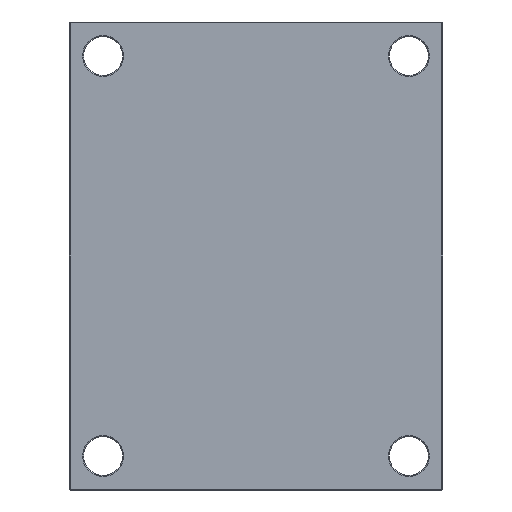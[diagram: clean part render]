
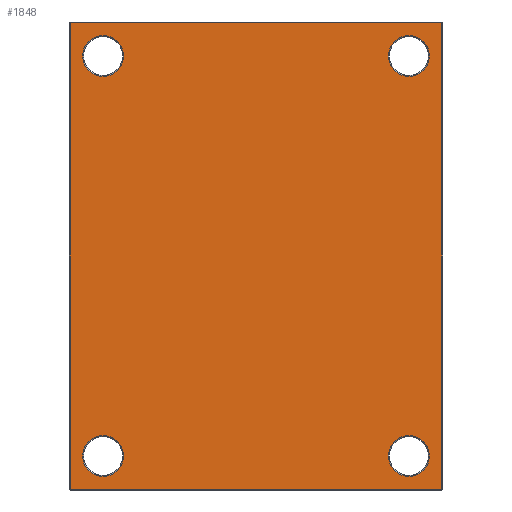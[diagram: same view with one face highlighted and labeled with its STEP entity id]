
A CAD part, front view. The second image highlights one B-rep face of the part: STEP entity #1848.
In plain terms, the highlighted planar face has unit normal (0, -1, 0).
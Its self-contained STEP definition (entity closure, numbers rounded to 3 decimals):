
#14 = CARTESIAN_POINT ( 'NONE',  ( -162., 0., 190.35 ) ) ;
#17 = DIRECTION ( 'NONE',  ( 0., 1., 0. ) ) ;
#46 = AXIS2_PLACEMENT_3D ( 'NONE', #1468, #167, #86 ) ;
#50 = AXIS2_PLACEMENT_3D ( 'NONE', #1085, #971, #840 ) ;
#52 = CARTESIAN_POINT ( 'NONE',  ( 162., 0., -212. ) ) ;
#60 = ORIENTED_EDGE ( 'NONE', *, *, #1984, .T. ) ;
#62 = DIRECTION ( 'NONE',  ( 0., 0., 1. ) ) ;
#64 = ORIENTED_EDGE ( 'NONE', *, *, #2108, .T. ) ;
#86 = DIRECTION ( 'NONE',  ( 0., 0., 1. ) ) ;
#95 = CARTESIAN_POINT ( 'NONE',  ( 162., 0., -233.65 ) ) ;
#103 = CARTESIAN_POINT ( 'NONE',  ( -162., 0., -190.35 ) ) ;
#112 = DIRECTION ( 'NONE',  ( 0., 1., 0. ) ) ;
#116 = VERTEX_POINT ( 'NONE', #95 ) ;
#138 = CARTESIAN_POINT ( 'NONE',  ( -162., 0., -212. ) ) ;
#150 = AXIS2_PLACEMENT_3D ( 'NONE', #564, #485, #478 ) ;
#156 = VERTEX_POINT ( 'NONE', #14 ) ;
#160 = AXIS2_PLACEMENT_3D ( 'NONE', #138, #17, #62 ) ;
#167 = DIRECTION ( 'NONE',  ( 0., 1., 0. ) ) ;
#168 = DIRECTION ( 'NONE',  ( 0., 0., 1. ) ) ;
#179 = AXIS2_PLACEMENT_3D ( 'NONE', #1309, #1211, #1059 ) ;
#229 = EDGE_CURVE ( 'NONE', #683, #116, #1366, .T. ) ;
#283 = DIRECTION ( 'NONE',  ( -1., 0., 0. ) ) ;
#296 = ORIENTED_EDGE ( 'NONE', *, *, #2058, .T. ) ;
#298 = CARTESIAN_POINT ( 'NONE',  ( 162., 0., 212. ) ) ;
#299 = CARTESIAN_POINT ( 'NONE',  ( 0., 0., 0. ) ) ;
#301 = ORIENTED_EDGE ( 'NONE', *, *, #2022, .T. ) ;
#304 = DIRECTION ( 'NONE',  ( 0., 1., 0. ) ) ;
#326 = CARTESIAN_POINT ( 'NONE',  ( 0., 0., 247. ) ) ;
#336 = CARTESIAN_POINT ( 'NONE',  ( 162., 0., -212. ) ) ;
#397 = AXIS2_PLACEMENT_3D ( 'NONE', #336, #304, #2031 ) ;
#422 = CARTESIAN_POINT ( 'NONE',  ( 162., 0., -190.35 ) ) ;
#433 = DIRECTION ( 'NONE',  ( 0., 1., 0. ) ) ;
#460 = FACE_OUTER_BOUND ( 'NONE', #1065, .T. ) ;
#471 = AXIS2_PLACEMENT_3D ( 'NONE', #299, #2151, #1292 ) ;
#474 = VERTEX_POINT ( 'NONE', #1813 ) ;
#478 = DIRECTION ( 'NONE',  ( 0., 0., 1. ) ) ;
#485 = DIRECTION ( 'NONE',  ( 0., 1., 0. ) ) ;
#491 = CARTESIAN_POINT ( 'NONE',  ( 162., 0., 233.65 ) ) ;
#508 = ORIENTED_EDGE ( 'NONE', *, *, #2109, .T. ) ;
#534 = AXIS2_PLACEMENT_3D ( 'NONE', #298, #433, #1965 ) ;
#564 = CARTESIAN_POINT ( 'NONE',  ( 162., 0., 212. ) ) ;
#578 = EDGE_LOOP ( 'NONE', ( #1860, #1958 ) ) ;
#585 = CIRCLE ( 'NONE', #46, 21.65 ) ;
#659 = ORIENTED_EDGE ( 'NONE', *, *, #2116, .T. ) ;
#683 = VERTEX_POINT ( 'NONE', #422 ) ;
#739 = CIRCLE ( 'NONE', #150, 21.65 ) ;
#754 = ORIENTED_EDGE ( 'NONE', *, *, #2054, .T. ) ;
#765 = LINE ( 'NONE', #1591, #1575 ) ;
#840 = DIRECTION ( 'NONE',  ( 0., 0., 1. ) ) ;
#900 = FACE_BOUND ( 'NONE', #1017, .T. ) ;
#922 = VECTOR ( 'NONE', #2111, 1000. ) ;
#924 = CIRCLE ( 'NONE', #397, 21.65 ) ;
#949 = AXIS2_PLACEMENT_3D ( 'NONE', #52, #112, #168 ) ;
#957 = CARTESIAN_POINT ( 'NONE',  ( -162., 0., -233.65 ) ) ;
#971 = DIRECTION ( 'NONE',  ( 0., 1., 0. ) ) ;
#1017 = EDGE_LOOP ( 'NONE', ( #301, #659 ) ) ;
#1026 = CIRCLE ( 'NONE', #50, 21.65 ) ;
#1046 = VERTEX_POINT ( 'NONE', #1304 ) ;
#1059 = DIRECTION ( 'NONE',  ( 0., 0., 1. ) ) ;
#1065 = EDGE_LOOP ( 'NONE', ( #508, #2110, #2134, #60 ) ) ;
#1085 = CARTESIAN_POINT ( 'NONE',  ( -162., 0., -212. ) ) ;
#1100 = EDGE_LOOP ( 'NONE', ( #1583, #296 ) ) ;
#1177 = CARTESIAN_POINT ( 'NONE',  ( 197., 0., 247. ) ) ;
#1211 = DIRECTION ( 'NONE',  ( 0., 1., 0. ) ) ;
#1231 = CIRCLE ( 'NONE', #534, 21.65 ) ;
#1235 = CARTESIAN_POINT ( 'NONE',  ( 162., 0., 190.35 ) ) ;
#1292 = DIRECTION ( 'NONE',  ( 0., 0., 1. ) ) ;
#1304 = CARTESIAN_POINT ( 'NONE',  ( -197., 0., -247. ) ) ;
#1309 = CARTESIAN_POINT ( 'NONE',  ( -162., 0., 212. ) ) ;
#1328 = VERTEX_POINT ( 'NONE', #1177 ) ;
#1333 = VERTEX_POINT ( 'NONE', #1358 ) ;
#1350 = CIRCLE ( 'NONE', #179, 21.65 ) ;
#1352 = FACE_BOUND ( 'NONE', #1100, .T. ) ;
#1358 = CARTESIAN_POINT ( 'NONE',  ( -197., 0., 247. ) ) ;
#1366 = CIRCLE ( 'NONE', #949, 21.65 ) ;
#1400 = FACE_BOUND ( 'NONE', #578, .T. ) ;
#1415 = VECTOR ( 'NONE', #1739, 1000. ) ;
#1417 = VECTOR ( 'NONE', #283, 1000. ) ;
#1420 = EDGE_LOOP ( 'NONE', ( #754, #64 ) ) ;
#1423 = VERTEX_POINT ( 'NONE', #957 ) ;
#1468 = CARTESIAN_POINT ( 'NONE',  ( -162., 0., 212. ) ) ;
#1472 = VERTEX_POINT ( 'NONE', #491 ) ;
#1553 = CARTESIAN_POINT ( 'NONE',  ( 197., 0., -247. ) ) ;
#1575 = VECTOR ( 'NONE', #2133, 1000. ) ;
#1583 = ORIENTED_EDGE ( 'NONE', *, *, #1690, .T. ) ;
#1591 = CARTESIAN_POINT ( 'NONE',  ( 0., 0., -247. ) ) ;
#1690 = EDGE_CURVE ( 'NONE', #1839, #1472, #1231, .T. ) ;
#1709 = VERTEX_POINT ( 'NONE', #1553 ) ;
#1739 = DIRECTION ( 'NONE',  ( 0., 0., 1. ) ) ;
#1789 = FACE_BOUND ( 'NONE', #1420, .T. ) ;
#1813 = CARTESIAN_POINT ( 'NONE',  ( -162., 0., 233.65 ) ) ;
#1839 = VERTEX_POINT ( 'NONE', #1235 ) ;
#1848 = ADVANCED_FACE ( 'NONE', ( #1789, #1400, #1352, #900, #460 ), #2142, .F. ) ;
#1860 = ORIENTED_EDGE ( 'NONE', *, *, #1919, .T. ) ;
#1870 = LINE ( 'NONE', #2000, #1415 ) ;
#1875 = LINE ( 'NONE', #326, #1417 ) ;
#1896 = EDGE_CURVE ( 'NONE', #1328, #1333, #1875, .T. ) ;
#1919 = EDGE_CURVE ( 'NONE', #116, #683, #924, .T. ) ;
#1922 = LINE ( 'NONE', #2163, #922 ) ;
#1937 = VERTEX_POINT ( 'NONE', #103 ) ;
#1958 = ORIENTED_EDGE ( 'NONE', *, *, #229, .T. ) ;
#1965 = DIRECTION ( 'NONE',  ( 0., 0., 1. ) ) ;
#1984 = EDGE_CURVE ( 'NONE', #1046, #1709, #765, .T. ) ;
#2000 = CARTESIAN_POINT ( 'NONE',  ( 197., 0., 0. ) ) ;
#2022 = EDGE_CURVE ( 'NONE', #156, #474, #1350, .T. ) ;
#2031 = DIRECTION ( 'NONE',  ( 0., 0., 1. ) ) ;
#2036 = CIRCLE ( 'NONE', #160, 21.65 ) ;
#2054 = EDGE_CURVE ( 'NONE', #1423, #1937, #2036, .T. ) ;
#2058 = EDGE_CURVE ( 'NONE', #1472, #1839, #739, .T. ) ;
#2108 = EDGE_CURVE ( 'NONE', #1937, #1423, #1026, .T. ) ;
#2109 = EDGE_CURVE ( 'NONE', #1709, #1328, #1870, .T. ) ;
#2110 = ORIENTED_EDGE ( 'NONE', *, *, #1896, .T. ) ;
#2111 = DIRECTION ( 'NONE',  ( 0., 0., -1. ) ) ;
#2116 = EDGE_CURVE ( 'NONE', #474, #156, #585, .T. ) ;
#2128 = EDGE_CURVE ( 'NONE', #1333, #1046, #1922, .T. ) ;
#2133 = DIRECTION ( 'NONE',  ( 1., 0., 0. ) ) ;
#2134 = ORIENTED_EDGE ( 'NONE', *, *, #2128, .T. ) ;
#2142 = PLANE ( 'NONE',  #471 ) ;
#2151 = DIRECTION ( 'NONE',  ( 0., 1., 0. ) ) ;
#2163 = CARTESIAN_POINT ( 'NONE',  ( -197., 0., 0. ) ) ;
